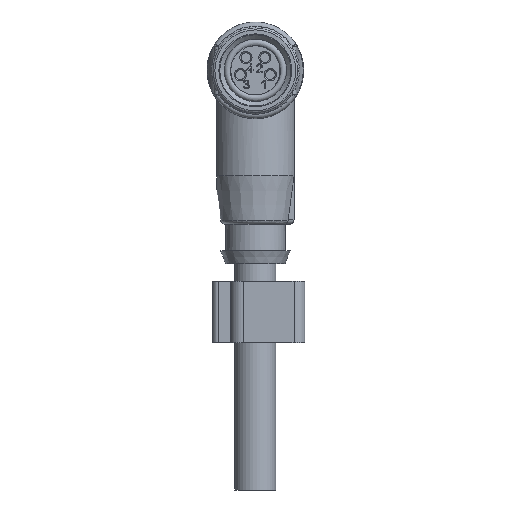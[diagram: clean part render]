
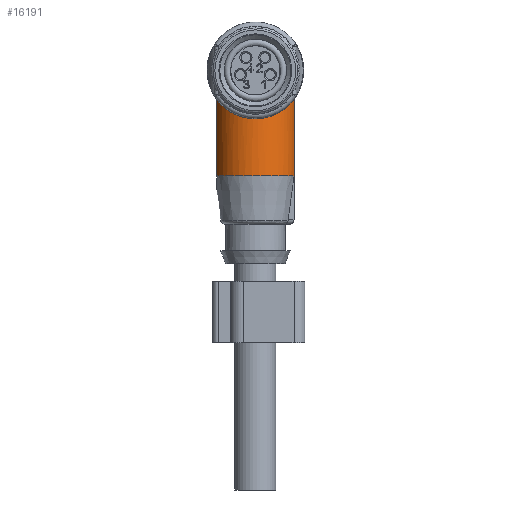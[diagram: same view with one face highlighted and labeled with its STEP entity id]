
A CAD part, left-side view. The second image highlights one B-rep face of the part: STEP entity #16191.
In plain terms, the highlighted cylindrical face has radius 4.6 mm (diameter 9.2 mm), a partial arc.
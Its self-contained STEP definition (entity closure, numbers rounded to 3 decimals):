
#14566=CARTESIAN_POINT('',(-1.342,-4.4,18.7));
#14567=VERTEX_POINT('',#14566);
#14574=CARTESIAN_POINT('',(-1.342,-4.4,10.0));
#14575=VERTEX_POINT('',#14574);
#14576=CARTESIAN_POINT('',(-1.342,-4.4,10.0));
#14577=DIRECTION('',(0.0,0.0,1.0));
#14578=VECTOR('',#14577,8.7);
#14579=LINE('',#14576,#14578);
#14580=EDGE_CURVE('',#14575,#14567,#14579,.T.);
#15286=CARTESIAN_POINT('',(-1.342,4.4,18.7));
#15287=VERTEX_POINT('',#15286);
#15288=CARTESIAN_POINT('',(-1.342,4.4,18.7));
#15289=CARTESIAN_POINT('',(-1.499,4.352,18.636));
#15290=CARTESIAN_POINT('',(-1.653,4.296,18.564));
#15291=CARTESIAN_POINT('',(-2.355,3.997,18.204));
#15292=CARTESIAN_POINT('',(-2.851,3.654,17.859));
#15293=CARTESIAN_POINT('',(-3.637,2.868,17.283));
#15294=CARTESIAN_POINT('',(-3.988,2.372,17.002));
#15295=CARTESIAN_POINT('',(-4.47,1.245,16.61));
#15296=CARTESIAN_POINT('',(-4.6,0.613,16.5));
#15297=CARTESIAN_POINT('',(-4.6,-0.613,16.5));
#15298=CARTESIAN_POINT('',(-4.47,-1.245,16.61));
#15299=CARTESIAN_POINT('',(-3.988,-2.372,17.002));
#15300=CARTESIAN_POINT('',(-3.637,-2.868,17.283));
#15301=CARTESIAN_POINT('',(-2.851,-3.654,17.859));
#15302=CARTESIAN_POINT('',(-2.355,-3.997,18.204));
#15303=CARTESIAN_POINT('',(-1.653,-4.296,18.564));
#15304=CARTESIAN_POINT('',(-1.499,-4.352,18.636));
#15305=CARTESIAN_POINT('',(-1.342,-4.4,18.7));
#15306=B_SPLINE_CURVE_WITH_KNOTS('',3,(#15288,#15289,#15290,#15291,#15292,#15293,#15294,#15295,#15296,#15297,#15298,#15299,#15300,#15301,#15302,#15303,#15304,#15305),.UNSPECIFIED.,.F.,.U.,(4,2,2,2,2,2,2,2,4),(0.14,0.192,0.384,0.568,0.752,0.936,1.119,1.311,1.363),.UNSPECIFIED.);
#15307=EDGE_CURVE('',#15287,#14567,#15306,.T.);
#16108=CARTESIAN_POINT('',(-1.342,4.4,10.0));
#16109=VERTEX_POINT('',#16108);
#16110=CARTESIAN_POINT('',(0.,0.,10.0));
#16111=DIRECTION('',(0.0,0.0,1.0));
#16112=DIRECTION('',(-1.0,0.0,0.0));
#16113=AXIS2_PLACEMENT_3D('',#16110,#16111,#16112);
#16114=CIRCLE('',#16113,4.6);
#16115=EDGE_CURVE('',#16109,#14575,#16114,.T.);
#16151=CARTESIAN_POINT('',(-1.342,4.4,18.7));
#16152=DIRECTION('',(0.0,0.0,-1.0));
#16153=VECTOR('',#16152,8.7);
#16154=LINE('',#16151,#16153);
#16155=EDGE_CURVE('',#15287,#16109,#16154,.T.);
#16180=CARTESIAN_POINT('',(0.,0.,16.0));
#16181=DIRECTION('',(0.,0.,1.0));
#16182=DIRECTION('',(-1.0,0.0,0.0));
#16183=AXIS2_PLACEMENT_3D('',#16180,#16181,#16182);
#16184=CYLINDRICAL_SURFACE('',#16183,4.6);
#16185=ORIENTED_EDGE('',*,*,#16155,.T.);
#16186=ORIENTED_EDGE('',*,*,#16115,.T.);
#16187=ORIENTED_EDGE('',*,*,#14580,.T.);
#16188=ORIENTED_EDGE('',*,*,#15307,.F.);
#16189=EDGE_LOOP('',(#16185,#16186,#16187,#16188));
#16190=FACE_OUTER_BOUND('',#16189,.T.);
#16191=ADVANCED_FACE('',(#16190),#16184,.T.);
